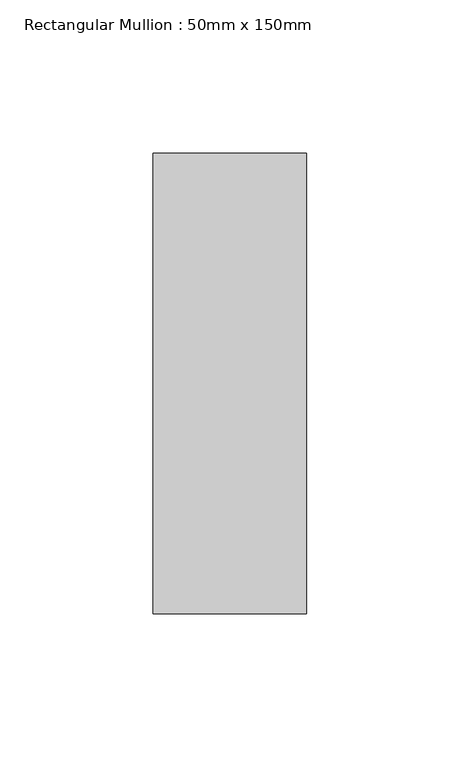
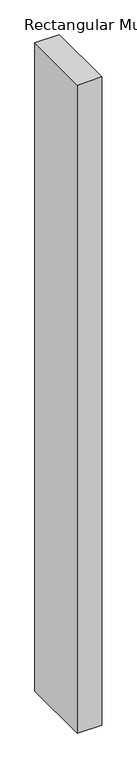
"""IFC4 building model written with IfcOpenShell, lengths in millimetres: member geometry, Rectangular Mullion : 50mm x 150mm."""

from ifc_helpers import new_model, si_unit, frame, origin, place, context, project, spatial, polyline, outline, extrude, source, transform, mapped, element, save


def rectangular_mullion_50mm_x_150mm_4fd86324(model_context):
    return source(origin(), model_context, "Body", "SweptSolid", [
        extrude(outline(polyline([(0.0, 75.0), (0.0, -75.0), (-50.0, -75.0), (-50.0, 75.0), (0.0, 75.0)])), frame((0.0, 0.0, -1402.3178264), z_axis=(0.0, 0.0, 1.0), x_axis=(1.0, 0.0, 0.0)), (0.0, 0.0, 1.0), 1402.3178264),
    ])


if __name__ == "__main__":
    model = new_model("IFC4")
    model_context = context("Model", 3, world=origin())
    ifc_project = project(units=[si_unit("LENGTHUNIT", "METRE", prefix="MILLI")], contexts=[model_context])
    site = spatial("IfcSite", under=ifc_project)
    building = spatial("IfcBuilding", under=site)
    placement = place(None, origin())
    rectangular_mullion_50mm_x_150mm_shape = rectangular_mullion_50mm_x_150mm_4fd86324(model_context)
    element("IfcMember", 1, ObjectType="Rectangular Mullion : 50mm x 150mm", at=placement, inside=building, context=model_context, shape_type="MappedRepresentation", body=[
        mapped(rectangular_mullion_50mm_x_150mm_shape, transform((0.0, 0.0, 0.0), x_axis=(1.0, 0.0, 0.0), y_axis=(0.0, 1.0, 0.0), z_axis=(0.0, 0.0, 1.0))),
    ])
    save(model, "model.ifc")
